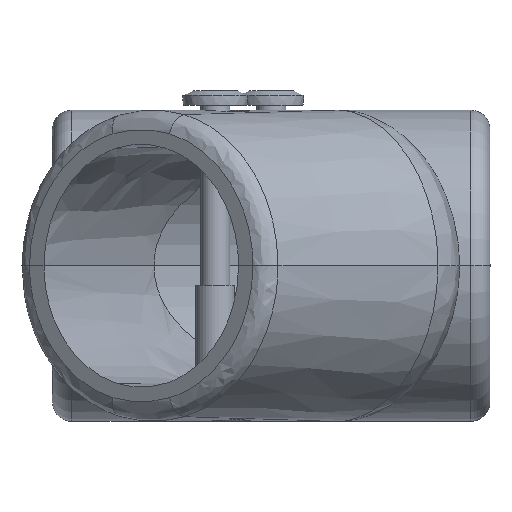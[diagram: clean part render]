
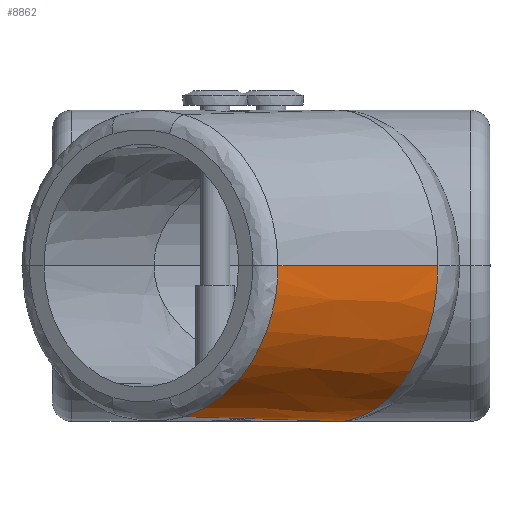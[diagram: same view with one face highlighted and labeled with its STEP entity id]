
A CAD part, front view. The second image highlights one B-rep face of the part: STEP entity #8862.
In plain terms, the highlighted free-form (B-spline) face has degree [3, 3] with [10, 4] control points.
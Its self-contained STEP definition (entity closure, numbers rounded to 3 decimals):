
#590=B_SPLINE_SURFACE_WITH_KNOTS('',3,3,((#20481,#20482,#20483,#20484),
(#20485,#20486,#20487,#20488),(#20489,#20490,#20491,#20492),(#20493,#20494,
#20495,#20496),(#20497,#20498,#20499,#20500),(#20501,#20502,#20503,#20504),
(#20505,#20506,#20507,#20508),(#20509,#20510,#20511,#20512),(#20513,#20514,
#20515,#20516),(#20517,#20518,#20519,#20520)),.UNSPECIFIED.,.F.,.F.,.F.,
(4,1,1,1,1,1,1,4),(4,4),(0.,0.071,0.143,0.214,
0.286,0.357,0.429,0.5),(0.009,
0.939),.UNSPECIFIED.);
#1041=FACE_OUTER_BOUND('',#1563,.T.);
#1563=EDGE_LOOP('',(#8175,#8176,#8177,#8178));
#3480=B_SPLINE_CURVE_WITH_KNOTS('',3,(#19531,#19532,#19533,#19534,#19535,
#19536,#19537,#19538,#19539,#19540),.UNSPECIFIED.,.F.,.F.,(4,1,1,1,1,1,
1,4),(0.,0.067,0.134,0.267,0.534,
1.603,2.672,3.74),.UNSPECIFIED.);
#3484=B_SPLINE_CURVE_WITH_KNOTS('',3,(#19582,#19583,#19584,#19585,#19586,
#19587),.UNSPECIFIED.,.F.,.F.,(4,2,4),(-4.81,-2.763,
-0.337),.UNSPECIFIED.);
#3524=B_SPLINE_CURVE_WITH_KNOTS('',3,(#20470,#20471,#20472,#20473,#20474,
#20475,#20476,#20477,#20478,#20479),.UNSPECIFIED.,.F.,.F.,(4,1,1,1,1,1,
1,4),(-2.809,-2.006,-1.204,-0.802,
-0.401,-0.201,-0.1,0.),
 .UNSPECIFIED.);
#3525=B_SPLINE_CURVE_WITH_KNOTS('',3,(#20521,#20522,#20523,#20524,#20525,
#20526,#20527),.UNSPECIFIED.,.F.,.F.,(4,1,1,1,4),(0.051,1.362,
2.724,4.086,5.057),.UNSPECIFIED.);
#4316=VERTEX_POINT('',#19451);
#4318=VERTEX_POINT('',#19512);
#4324=VERTEX_POINT('',#19581);
#4362=VERTEX_POINT('',#20469);
#5579=EDGE_CURVE('',#4316,#4318,#3480,.T.);
#5585=EDGE_CURVE('',#4324,#4318,#3484,.T.);
#5646=EDGE_CURVE('',#4324,#4362,#3524,.T.);
#5648=EDGE_CURVE('',#4362,#4316,#3525,.T.);
#8175=ORIENTED_EDGE('',*,*,#5579,.F.);
#8176=ORIENTED_EDGE('',*,*,#5648,.F.);
#8177=ORIENTED_EDGE('',*,*,#5646,.F.);
#8178=ORIENTED_EDGE('',*,*,#5585,.T.);
#8862=ADVANCED_FACE('',(#1041),#590,.T.);
#19451=CARTESIAN_POINT('',(8.922,-31.043,85.465));
#19512=CARTESIAN_POINT('',(28.117,0.,100.929));
#19531=CARTESIAN_POINT('Ctrl Pts',(8.922,-31.043,85.465));
#19532=CARTESIAN_POINT('Ctrl Pts',(9.137,-30.978,85.64));
#19533=CARTESIAN_POINT('Ctrl Pts',(9.52,-30.852,85.946));
#19534=CARTESIAN_POINT('Ctrl Pts',(10.291,-30.575,86.563));
#19535=CARTESIAN_POINT('Ctrl Pts',(11.611,-30.033,87.617));
#19536=CARTESIAN_POINT('Ctrl Pts',(15.664,-27.961,90.854));
#19537=CARTESIAN_POINT('Ctrl Pts',(21.59,-22.616,95.613));
#19538=CARTESIAN_POINT('Ctrl Pts',(26.876,-12.219,99.904));
#19539=CARTESIAN_POINT('Ctrl Pts',(28.117,-4.079,100.929));
#19540=CARTESIAN_POINT('Ctrl Pts',(28.117,0.,
100.929));
#19581=CARTESIAN_POINT('',(61.022,0.,70.619));
#19582=CARTESIAN_POINT('Ctrl Pts',(61.022,0.,
70.619));
#19583=CARTESIAN_POINT('Ctrl Pts',(56.002,0.,
75.243));
#19584=CARTESIAN_POINT('Ctrl Pts',(50.982,0.,
79.867));
#19585=CARTESIAN_POINT('Ctrl Pts',(40.014,0.,
89.97));
#19586=CARTESIAN_POINT('Ctrl Pts',(34.065,0.,
95.449));
#19587=CARTESIAN_POINT('Ctrl Pts',(28.117,0.,
100.929));
#20469=CARTESIAN_POINT('',(40.576,-31.99,46.685));
#20470=CARTESIAN_POINT('Ctrl Pts',(61.022,0.,
70.619));
#20471=CARTESIAN_POINT('Ctrl Pts',(61.022,-4.637,70.619));
#20472=CARTESIAN_POINT('Ctrl Pts',(59.643,-14.023,69.202));
#20473=CARTESIAN_POINT('Ctrl Pts',(54.53,-23.812,63.791));
#20474=CARTESIAN_POINT('Ctrl Pts',(49.042,-29.094,57.606));
#20475=CARTESIAN_POINT('Ctrl Pts',(45.356,-31.085,53.188));
#20476=CARTESIAN_POINT('Ctrl Pts',(42.862,-31.757,49.95));
#20477=CARTESIAN_POINT('Ctrl Pts',(41.517,-31.95,48.087));
#20478=CARTESIAN_POINT('Ctrl Pts',(40.864,-31.986,47.147));
#20479=CARTESIAN_POINT('Ctrl Pts',(40.576,-31.99,46.685));
#20481=CARTESIAN_POINT('Ctrl Pts',(40.576,-31.99,46.685));
#20482=CARTESIAN_POINT('Ctrl Pts',(29.902,-31.671,59.762));
#20483=CARTESIAN_POINT('Ctrl Pts',(19.228,-31.351,72.84));
#20484=CARTESIAN_POINT('Ctrl Pts',(8.553,-31.032,85.917));
#20485=CARTESIAN_POINT('Ctrl Pts',(40.945,-31.99,46.967));
#20486=CARTESIAN_POINT('Ctrl Pts',(30.249,-31.64,60.029));
#20487=CARTESIAN_POINT('Ctrl Pts',(19.554,-31.29,73.09));
#20488=CARTESIAN_POINT('Ctrl Pts',(8.858,-30.94,86.151));
#20489=CARTESIAN_POINT('Ctrl Pts',(42.556,-31.988,48.204));
#20490=CARTESIAN_POINT('Ctrl Pts',(31.753,-31.57,61.183));
#20491=CARTESIAN_POINT('Ctrl Pts',(20.997,-30.965,74.197));
#20492=CARTESIAN_POINT('Ctrl Pts',(10.199,-30.527,87.18));
#20493=CARTESIAN_POINT('Ctrl Pts',(46.996,-31.182,51.611));
#20494=CARTESIAN_POINT('Ctrl Pts',(35.891,-30.666,64.358));
#20495=CARTESIAN_POINT('Ctrl Pts',(24.889,-29.415,77.184));
#20496=CARTESIAN_POINT('Ctrl Pts',(13.794,-28.822,89.939));
#20497=CARTESIAN_POINT('Ctrl Pts',(52.629,-28.534,55.933));
#20498=CARTESIAN_POINT('Ctrl Pts',(41.14,-27.954,68.386));
#20499=CARTESIAN_POINT('Ctrl Pts',(29.685,-26.208,80.864));
#20500=CARTESIAN_POINT('Ctrl Pts',(18.199,-25.505,93.319));
#20501=CARTESIAN_POINT('Ctrl Pts',(58.308,-23.442,60.291));
#20502=CARTESIAN_POINT('Ctrl Pts',(46.413,-22.859,72.431));
#20503=CARTESIAN_POINT('Ctrl Pts',(34.41,-21.086,84.49));
#20504=CARTESIAN_POINT('Ctrl Pts',(22.504,-20.379,96.622));
#20505=CARTESIAN_POINT('Ctrl Pts',(62.851,-16.143,63.777));
#20506=CARTESIAN_POINT('Ctrl Pts',(50.59,-15.643,75.637));
#20507=CARTESIAN_POINT('Ctrl Pts',(38.151,-14.361,87.36));
#20508=CARTESIAN_POINT('Ctrl Pts',(25.871,-13.778,99.205));
#20509=CARTESIAN_POINT('Ctrl Pts',(65.468,-7.736,65.784));
#20510=CARTESIAN_POINT('Ctrl Pts',(52.942,-7.418,77.441));
#20511=CARTESIAN_POINT('Ctrl Pts',(40.327,-6.892,89.03));
#20512=CARTESIAN_POINT('Ctrl Pts',(27.792,-6.552,100.68));
#20513=CARTESIAN_POINT('Ctrl Pts',(65.906,-2.39,66.121));
#20514=CARTESIAN_POINT('Ctrl Pts',(53.309,-2.27,77.723));
#20515=CARTESIAN_POINT('Ctrl Pts',(40.713,-2.149,89.326));
#20516=CARTESIAN_POINT('Ctrl Pts',(28.117,-2.029,100.929));
#20517=CARTESIAN_POINT('Ctrl Pts',(65.906,0.,
66.121));
#20518=CARTESIAN_POINT('Ctrl Pts',(53.309,0.,
77.723));
#20519=CARTESIAN_POINT('Ctrl Pts',(40.713,0.,
89.326));
#20520=CARTESIAN_POINT('Ctrl Pts',(28.117,0.,
100.929));
#20521=CARTESIAN_POINT('Ctrl Pts',(40.576,-31.99,46.685));
#20522=CARTESIAN_POINT('Ctrl Pts',(37.813,-31.908,50.07));
#20523=CARTESIAN_POINT('Ctrl Pts',(32.179,-31.739,56.972));
#20524=CARTESIAN_POINT('Ctrl Pts',(23.676,-31.485,67.39));
#20525=CARTESIAN_POINT('Ctrl Pts',(15.888,-31.251,76.931));
#20526=CARTESIAN_POINT('Ctrl Pts',(10.97,-31.104,82.956));
#20527=CARTESIAN_POINT('Ctrl Pts',(8.922,-31.043,85.465));
